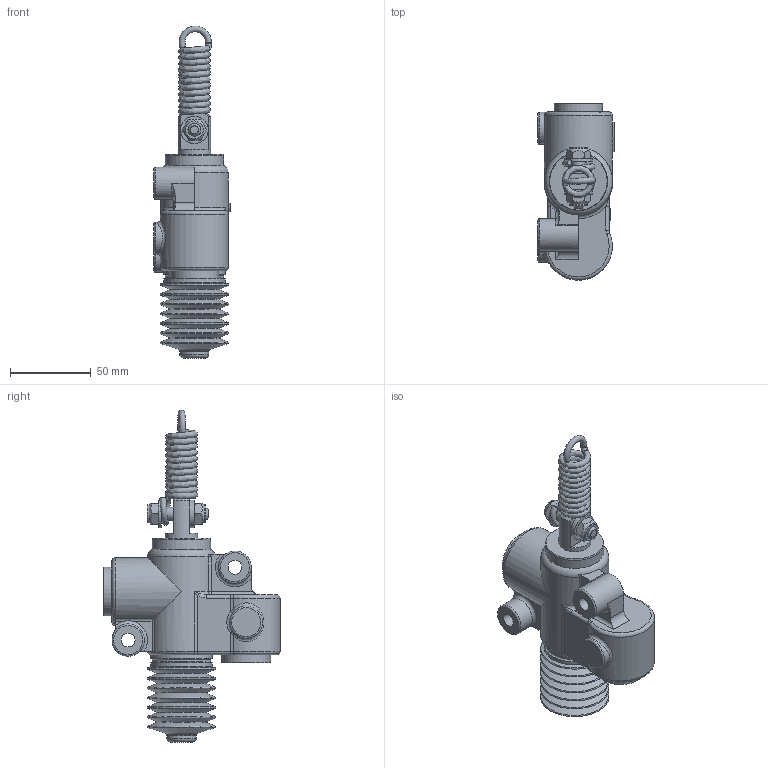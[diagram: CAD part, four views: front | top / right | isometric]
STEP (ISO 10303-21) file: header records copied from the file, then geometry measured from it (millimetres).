
FILE_DESCRIPTION((''),'2;1');
FILE_NAME('G:\HV_HYDRAULIC\AZIENDA_HV_HYDRAULIC\ARCHIVIO_DISEGNI\5_PRODOTTI_FINITI\3_VALVOLE\6200_VFC\6200.0015_VFC_3-4_G_nc_(HV)\6200.0015.stp','2024-09-27T13:34:44',('christian.scardovi'),(''),'Autodesk Inventor 2013','Autodesk Inventor 2013','');
FILE_SCHEMA(('AUTOMOTIVE_DESIGN { 1 0 10303 214 1 1 1 1 }'));
Length unit declared in the file: millimetre
Products named in the file (1): 6200.0015
Bounding box: 47 x 108.92 x 205.2 mm (x, y, z)
Volume: 281113.7 mm3; surface area: 49886.2 mm2
Topology: 1 solids, 1 shells, 249 faces, 602 edges, 372 vertices
Faces by surface type: plane 86, cylinder 45, bspline 40, torus 39, cone 38, sphere 1
Full cylindrical faces by diameter (mm): 3.7 x1, 6.647 x1, 8 x1, 8.5 x3, 11.05 x2, 14.5 x2, 17 x2, 18 x1, 20 x4, 30 x2, 36 x4, 38 x1, 38.004 x1
Entity records: 9311 total; most frequent: CARTESIAN_POINT 3879, ORIENTED_EDGE 1016, DIRECTION 981, EDGE_CURVE 508, AXIS2_PLACEMENT_3D 402, VERTEX_POINT 355, EDGE_LOOP 353, STYLED_ITEM 250
